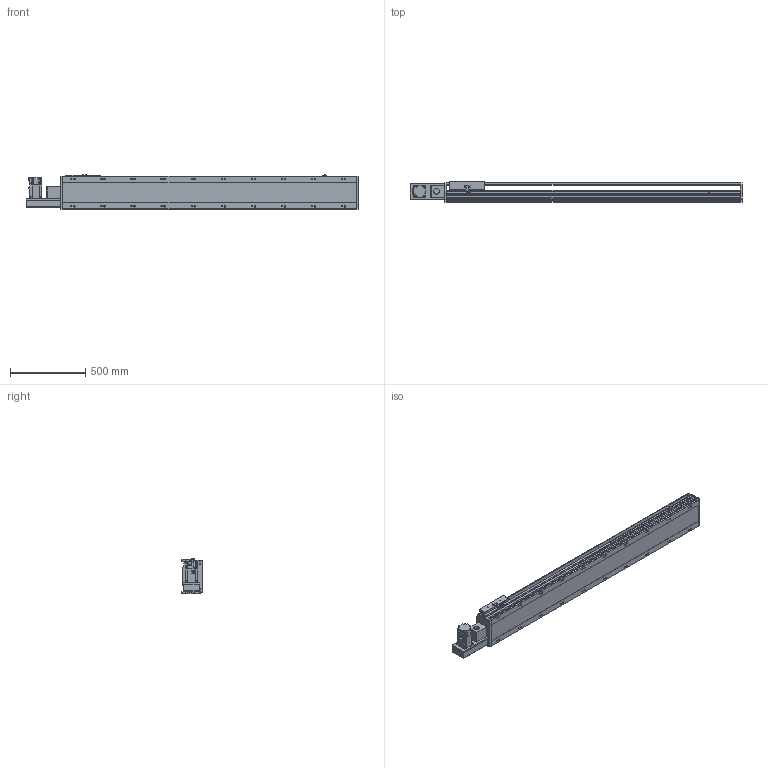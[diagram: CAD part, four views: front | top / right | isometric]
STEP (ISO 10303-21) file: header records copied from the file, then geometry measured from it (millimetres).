
FILE_DESCRIPTION(/* description */ ('STEP AP214'),/* implementation_level */ '2;1');
FILE_NAME(/* name */ 'PBS220-P40-S1600-L-T75-C1-N(0)',/* time_stamp */ '2022-06-11T09:56:25+02:00',/* author */ ('License CC BY-ND 4.0'),/* organization */ ('CADENAS'),/* preprocessor_version */ 'ST-DEVELOPER v18.102',/* originating_system */ 'PARTsolutions',/* authorisation */ ' ');
FILE_SCHEMA (('AUTOMOTIVE_DESIGN {1 0 10303 214 3 1 1}'));
Length unit declared in the file: millimetre
Products named in the file (7): PBS220-P40-S1600-L-T75-C1-N(0); PBS220_sensor; PBS220_plant; PBS220_sliser; T75-p1; PBS220T-L_motors; PBS220-S1600()_body
Assembly tree (8 placements, depth 2):
  PBS220-P40-S1600-L-T75-C1-N(0)
    PBS220_sensor  x3
    PBS220_plant
    PBS220_sliser
    T75-p1
    PBS220T-L_motors
    PBS220-S1600()_body
Bounding box: 2206 x 134 x 238.5 mm (x, y, z)
Volume: 29542454.4 mm3; surface area: 2786476.7 mm2
Topology: 8 solids, 8 shells, 938 faces, 2452 edges, 1594 vertices
Faces by surface type: plane 606, cylinder 288, cone 44
Full cylindrical faces by diameter (mm): 2.013 x4, 4.5 x14, 4.917 x4, 6 x7, 6.647 x8, 8 x10, 8.376 x20, 8.5 x20, 10 x6, 14 x20, 38 x2, 40 x1, 70 x1
Entity records: 26253 total; most frequent: CARTESIAN_POINT 4624, DIRECTION 4563, ORIENTED_EDGE 4178, EDGE_CURVE 2089, AXIS2_PLACEMENT_3D 1607, VERTEX_POINT 1448, LINE 1349, VECTOR 1349
